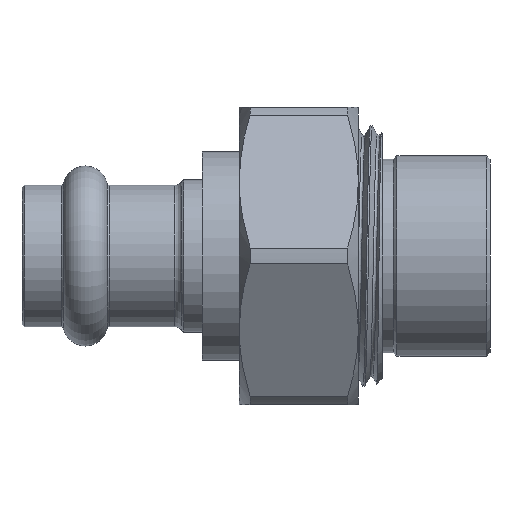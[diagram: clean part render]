
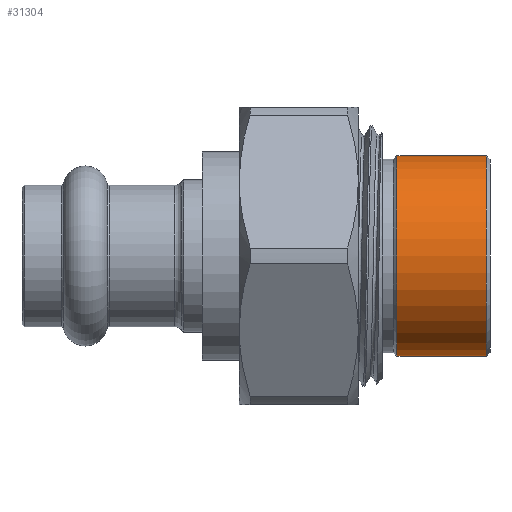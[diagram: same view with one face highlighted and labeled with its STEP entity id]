
A CAD part, front view. The second image highlights one B-rep face of the part: STEP entity #31304.
In plain terms, the highlighted cylindrical face has radius 0.532 mm (diameter 1.064 mm), a partial arc.
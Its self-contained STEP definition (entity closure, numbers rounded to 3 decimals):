
#17206 = VERTEX_POINT('',#17207);
#17207 = CARTESIAN_POINT('',(-26.926,7.829,0.532));
#17221 = CONICAL_SURFACE('',#17222,0.512,0.785);
#17222 = AXIS2_PLACEMENT_3D('',#17223,#17224,#17225);
#17223 = CARTESIAN_POINT('',(-26.946,7.829,
    0.));
#17224 = DIRECTION('',(1.,0.,0.));
#17225 = DIRECTION('',(0.,0.,-1.));
#17234 = VERTEX_POINT('',#17235);
#17235 = CARTESIAN_POINT('',(-26.926,7.829,-0.532));
#17250 = CYLINDRICAL_SURFACE('',#17251,0.532);
#17251 = AXIS2_PLACEMENT_3D('',#17252,#17253,#17254);
#17252 = CARTESIAN_POINT('',(-27.005,7.829,
    0.));
#17253 = DIRECTION('',(1.,0.,0.));
#17254 = DIRECTION('',(0.,0.,-1.));
#17404 = VERTEX_POINT('',#17405);
#17405 = CARTESIAN_POINT('',(-26.453,7.829,-0.532));
#17419 = CONICAL_SURFACE('',#17420,0.512,0.785);
#17420 = AXIS2_PLACEMENT_3D('',#17421,#17422,#17423);
#17421 = CARTESIAN_POINT('',(-26.434,7.829,
    0.));
#17422 = DIRECTION('',(-1.,0.,0.));
#17423 = DIRECTION('',(0.,0.,1.));
#17432 = VERTEX_POINT('',#17433);
#17433 = CARTESIAN_POINT('',(-26.453,7.829,0.532));
#28303 = EDGE_CURVE('',#17206,#17432,#28304,.T.);
#28304 = SURFACE_CURVE('',#28305,(#28309,#28316),.PCURVE_S1.);
#28305 = LINE('',#28306,#28307);
#28306 = CARTESIAN_POINT('',(-27.005,7.829,0.532));
#28307 = VECTOR('',#28308,1.);
#28308 = DIRECTION('',(1.,0.,0.));
#28309 = PCURVE('',#17250,#28310);
#28310 = DEFINITIONAL_REPRESENTATION('',(#28311),#28315);
#28311 = LINE('',#28312,#28313);
#28312 = CARTESIAN_POINT('',(3.142,0.));
#28313 = VECTOR('',#28314,1.);
#28314 = DIRECTION('',(0.,1.));
#28315 = ( GEOMETRIC_REPRESENTATION_CONTEXT(2) 
PARAMETRIC_REPRESENTATION_CONTEXT() REPRESENTATION_CONTEXT('2D SPACE',''
  ) );
#28316 = PCURVE('',#28317,#28322);
#28317 = CYLINDRICAL_SURFACE('',#28318,0.532);
#28318 = AXIS2_PLACEMENT_3D('',#28319,#28320,#28321);
#28319 = CARTESIAN_POINT('',(-27.005,7.829,
    0.));
#28320 = DIRECTION('',(1.,0.,0.));
#28321 = DIRECTION('',(0.,0.,-1.));
#28322 = DEFINITIONAL_REPRESENTATION('',(#28323),#28327);
#28323 = LINE('',#28324,#28325);
#28324 = CARTESIAN_POINT('',(3.142,0.));
#28325 = VECTOR('',#28326,1.);
#28326 = DIRECTION('',(0.,1.));
#28327 = ( GEOMETRIC_REPRESENTATION_CONTEXT(2) 
PARAMETRIC_REPRESENTATION_CONTEXT() REPRESENTATION_CONTEXT('2D SPACE',''
  ) );
#28330 = EDGE_CURVE('',#17234,#17404,#28331,.T.);
#28331 = SURFACE_CURVE('',#28332,(#28336,#28343),.PCURVE_S1.);
#28332 = LINE('',#28333,#28334);
#28333 = CARTESIAN_POINT('',(-27.005,7.829,-0.532));
#28334 = VECTOR('',#28335,1.);
#28335 = DIRECTION('',(1.,0.,0.));
#28336 = PCURVE('',#17250,#28337);
#28337 = DEFINITIONAL_REPRESENTATION('',(#28338),#28342);
#28338 = LINE('',#28339,#28340);
#28339 = CARTESIAN_POINT('',(0.,0.));
#28340 = VECTOR('',#28341,1.);
#28341 = DIRECTION('',(0.,1.));
#28342 = ( GEOMETRIC_REPRESENTATION_CONTEXT(2) 
PARAMETRIC_REPRESENTATION_CONTEXT() REPRESENTATION_CONTEXT('2D SPACE',''
  ) );
#28343 = PCURVE('',#28317,#28344);
#28344 = DEFINITIONAL_REPRESENTATION('',(#28345),#28349);
#28345 = LINE('',#28346,#28347);
#28346 = CARTESIAN_POINT('',(6.283,0.));
#28347 = VECTOR('',#28348,1.);
#28348 = DIRECTION('',(0.,1.));
#28349 = ( GEOMETRIC_REPRESENTATION_CONTEXT(2) 
PARAMETRIC_REPRESENTATION_CONTEXT() REPRESENTATION_CONTEXT('2D SPACE',''
  ) );
#31304 = ADVANCED_FACE('',(#31305),#28317,.T.);
#31305 = FACE_BOUND('',#31306,.T.);
#31306 = EDGE_LOOP('',(#31307,#31308,#31330,#31331));
#31307 = ORIENTED_EDGE('',*,*,#28303,.F.);
#31308 = ORIENTED_EDGE('',*,*,#31309,.T.);
#31309 = EDGE_CURVE('',#17206,#17234,#31310,.T.);
#31310 = SURFACE_CURVE('',#31311,(#31316,#31323),.PCURVE_S1.);
#31311 = CIRCLE('',#31312,0.532);
#31312 = AXIS2_PLACEMENT_3D('',#31313,#31314,#31315);
#31313 = CARTESIAN_POINT('',(-26.926,7.829,
    0.));
#31314 = DIRECTION('',(1.,0.,0.));
#31315 = DIRECTION('',(0.,0.,-1.));
#31316 = PCURVE('',#28317,#31317);
#31317 = DEFINITIONAL_REPRESENTATION('',(#31318),#31322);
#31318 = LINE('',#31319,#31320);
#31319 = CARTESIAN_POINT('',(0.,0.079));
#31320 = VECTOR('',#31321,1.);
#31321 = DIRECTION('',(1.,0.));
#31322 = ( GEOMETRIC_REPRESENTATION_CONTEXT(2) 
PARAMETRIC_REPRESENTATION_CONTEXT() REPRESENTATION_CONTEXT('2D SPACE',''
  ) );
#31323 = PCURVE('',#17221,#31324);
#31324 = DEFINITIONAL_REPRESENTATION('',(#31325),#31329);
#31325 = LINE('',#31326,#31327);
#31326 = CARTESIAN_POINT('',(0.,0.02));
#31327 = VECTOR('',#31328,1.);
#31328 = DIRECTION('',(1.,0.));
#31329 = ( GEOMETRIC_REPRESENTATION_CONTEXT(2) 
PARAMETRIC_REPRESENTATION_CONTEXT() REPRESENTATION_CONTEXT('2D SPACE',''
  ) );
#31330 = ORIENTED_EDGE('',*,*,#28330,.T.);
#31331 = ORIENTED_EDGE('',*,*,#31332,.T.);
#31332 = EDGE_CURVE('',#17404,#17432,#31333,.T.);
#31333 = SURFACE_CURVE('',#31334,(#31339,#31346),.PCURVE_S1.);
#31334 = CIRCLE('',#31335,0.532);
#31335 = AXIS2_PLACEMENT_3D('',#31336,#31337,#31338);
#31336 = CARTESIAN_POINT('',(-26.453,7.829,
    0.));
#31337 = DIRECTION('',(-1.,0.,0.));
#31338 = DIRECTION('',(0.,0.,-1.));
#31339 = PCURVE('',#28317,#31340);
#31340 = DEFINITIONAL_REPRESENTATION('',(#31341),#31345);
#31341 = LINE('',#31342,#31343);
#31342 = CARTESIAN_POINT('',(6.283,0.552));
#31343 = VECTOR('',#31344,1.);
#31344 = DIRECTION('',(-1.,0.));
#31345 = ( GEOMETRIC_REPRESENTATION_CONTEXT(2) 
PARAMETRIC_REPRESENTATION_CONTEXT() REPRESENTATION_CONTEXT('2D SPACE',''
  ) );
#31346 = PCURVE('',#17419,#31347);
#31347 = DEFINITIONAL_REPRESENTATION('',(#31348),#31352);
#31348 = LINE('',#31349,#31350);
#31349 = CARTESIAN_POINT('',(3.142,0.02));
#31350 = VECTOR('',#31351,1.);
#31351 = DIRECTION('',(1.,0.));
#31352 = ( GEOMETRIC_REPRESENTATION_CONTEXT(2) 
PARAMETRIC_REPRESENTATION_CONTEXT() REPRESENTATION_CONTEXT('2D SPACE',''
  ) );
